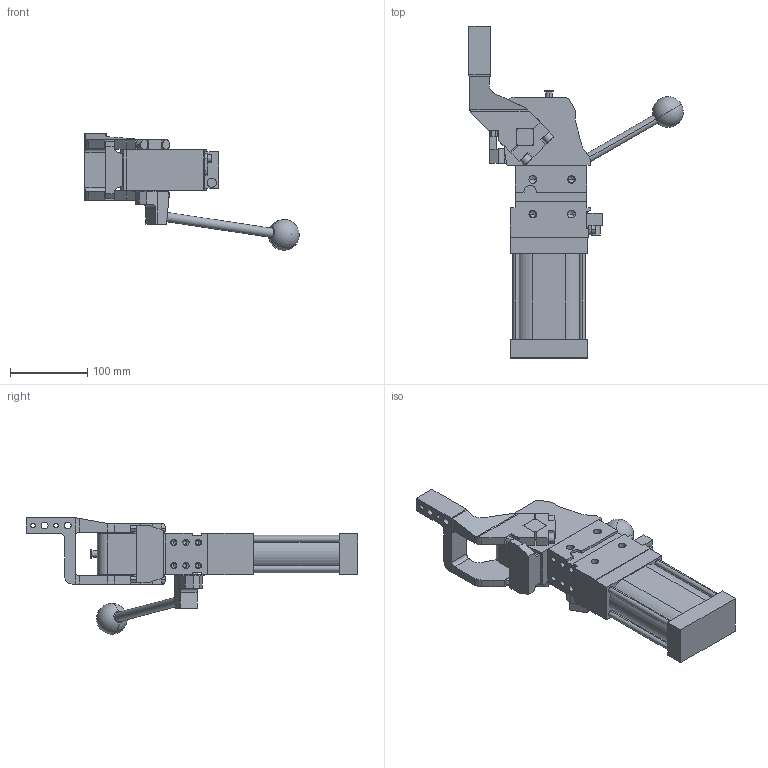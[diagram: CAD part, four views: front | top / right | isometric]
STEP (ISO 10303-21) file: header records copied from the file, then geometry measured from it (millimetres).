
FILE_DESCRIPTION (( 'STEP AP214' ), '1' );
FILE_NAME ('cplm63lbth3si1g_107.STEP', '2023-01-26T15:06:55', ( '' ), ( '' ), 'SwSTEP 2.0', 'SolidWorks 2022', '' );
FILE_SCHEMA (( 'AUTOMOTIVE_DESIGN' ));
Length unit declared in the file: millimetre
Products named in the file (5): meccanica_cplm_63_tassello_esterno; blocchetto_VEP_0; cplm63lbth3si1g_107; leva_h3s_cpl63t; comando_manuale_cplm_63
Assembly tree (4 placements, depth 2):
  cplm63lbth3si1g_107
    meccanica_cplm_63_tassello_esterno
    blocchetto_VEP_0
    leva_h3s_cpl63t
    comando_manuale_cplm_63
Bounding box: 277.96 x 430.5 x 151 mm (x, y, z)
Volume: 1918969.6 mm3; surface area: 218219.9 mm2
Topology: 4 solids, 4 shells, 467 faces, 1233 edges, 769 vertices
Faces by surface type: plane 252, cylinder 163, cone 50, sphere 2
Entity records: 15688 total; most frequent: CARTESIAN_POINT 2528, DIRECTION 2471, ORIENTED_EDGE 2364, EDGE_CURVE 1182, AXIS2_PLACEMENT_3D 831, VECTOR 809, LINE 809, VERTEX_POINT 766
